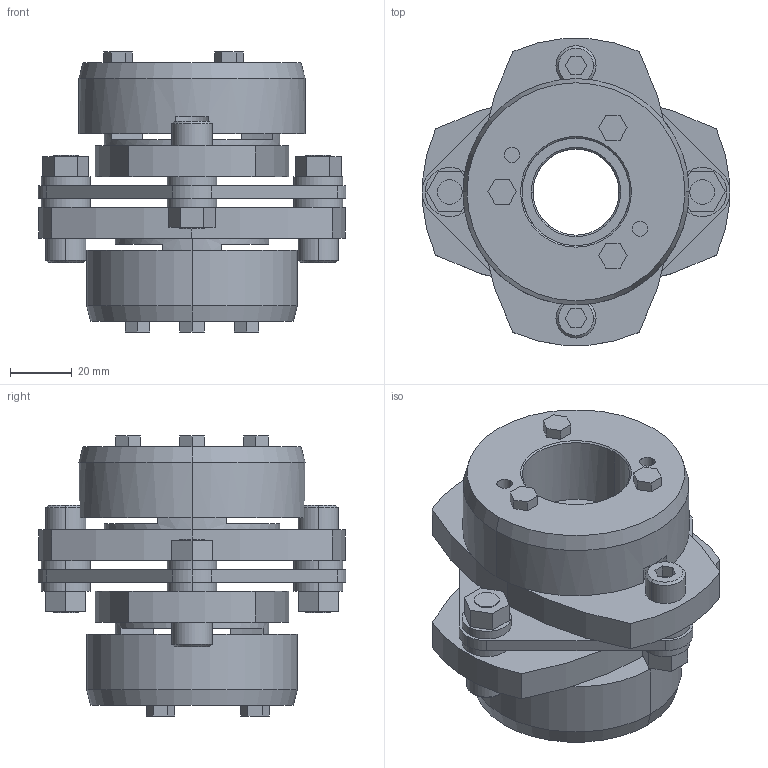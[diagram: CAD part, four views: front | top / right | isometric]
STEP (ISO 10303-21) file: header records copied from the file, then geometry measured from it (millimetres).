
FILE_DESCRIPTION((''),'2;1');
FILE_NAME('LCS-100T7-28×35.stp','2015-11-02T07:52:59',(''),(''),'AutoCAD STEP 2000i','AutoCAD 2000i',', , ');
FILE_SCHEMA(('CONFIG_CONTROL_DESIGN'));
Length unit declared in the file: millimetre
Products named in the file (10): LCS-100T7-28×35; 忣兜1; LC100T7-T028-1; LC100T7-T035; LC100T7-T030; LC100T7-T025-1; LC100T7-T025; LC100T7-T022-1; LC100T7-T022; LCS100-ITA
Assembly tree (9 placements, depth 2):
  LCS-100T7-28×35
    忣兜1
    LC100T7-T028-1
    LC100T7-T035
    LC100T7-T030
    LC100T7-T025-1
    LC100T7-T025
    LC100T7-T022-1
    LC100T7-T022
    LCS100-ITA
Bounding box: 100 x 99.93 x 91 mm (x, y, z)
Volume: 273360.9 mm3; surface area: 66224.1 mm2
Topology: 1 solids, 1 shells, 236 faces, 580 edges, 380 vertices
Faces by surface type: plane 134, cylinder 82, cone 20
Entity records: 7245 total; most frequent: DIRECTION 1276, CARTESIAN_POINT 1206, ORIENTED_EDGE 1160, EDGE_CURVE 580, AXIS2_PLACEMENT_3D 450, VERTEX_POINT 380, VECTOR 376, LINE 376
